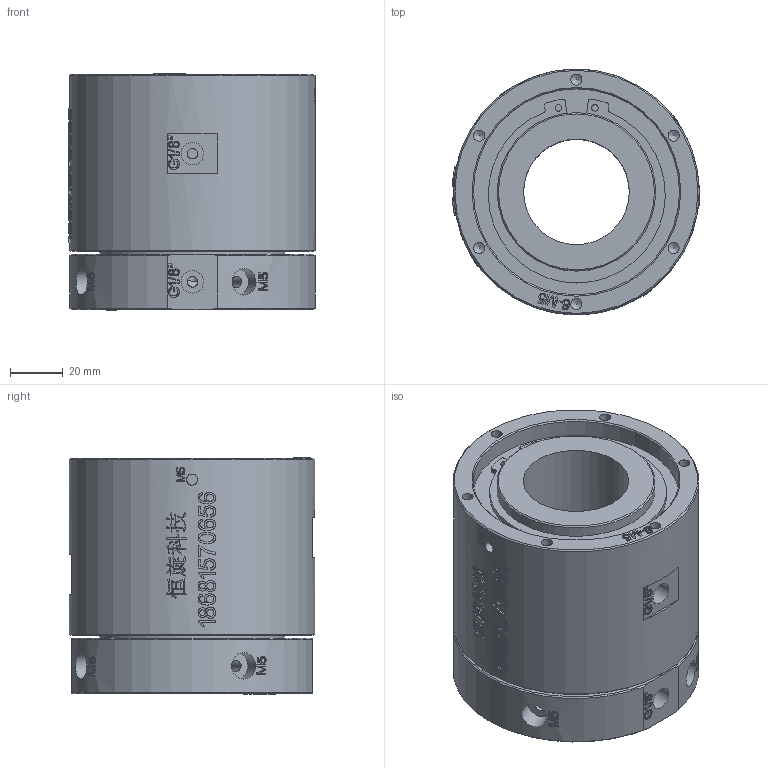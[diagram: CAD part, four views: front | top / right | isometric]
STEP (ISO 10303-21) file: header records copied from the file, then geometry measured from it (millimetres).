
FILE_DESCRIPTION(/* description */ (''),/* implementation_level */ '2;1');
FILE_NAME(/* name */ 'HQ0201-D40-3D模型.stp',/* time_stamp */ '2025-08-04T18:06:35+08:00',/* author */ (''),/* organization */ (''),/* preprocessor_version */ 'ST-DEVELOPER v16.7',/* originating_system */ 'SIEMENS PLM Software NX 12.0',/* authorisation */ '');
FILE_SCHEMA (('AUTOMOTIVE_DESIGN { 1 0 10303 214 3 1 1 1 }'));
Products named in the file (1): AdmiA0707E3Egp9z
Bounding box: 93.57 x 93 x 89.4 mm (x, y, z)
Volume: 465645.4 mm3; surface area: 64852 mm2
Topology: 1 solids, 1 shells, 1410 faces, 3869 edges, 2581 vertices
Faces by surface type: extrusion 732, plane 519, cylinder 70, bspline 70, cone 19
Full cylindrical faces by diameter (mm): 2.5 x2, 4 x6, 4.1 x2, 4.2 x14, 6.8 x4, 8.5 x4, 10 x4, 40 x1, 57 x1, 60 x1, 70 x1, 78 x1, 85 x1, 93 x1
Entity records: 54685 total; most frequent: CARTESIAN_POINT 24844, ORIENTED_EDGE 7546, EDGE_CURVE 3773, B_SPLINE_CURVE_WITH_KNOTS 3623, DIRECTION 3160, VERTEX_POINT 2556, EDGE_LOOP 1601, ADVANCED_FACE 1410
